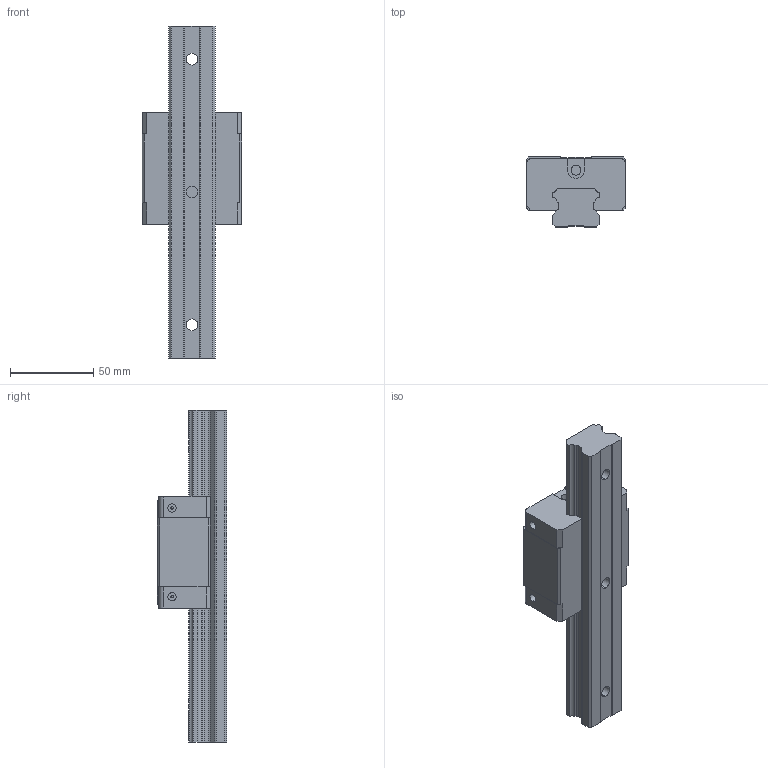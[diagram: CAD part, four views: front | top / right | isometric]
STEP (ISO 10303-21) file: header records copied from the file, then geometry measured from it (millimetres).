
FILE_DESCRIPTION((''),'2;1');
FILE_NAME('QEH30SA_ASM','2008-07-11T',('brianyu'),(''),'PRO/ENGINEER BY PARAMETRIC TECHNOLOGY CORPORATION, 2004360','PRO/ENGINEER BY PARAMETRIC TECHNOLOGY CORPORATION, 2004360','');
FILE_SCHEMA(('CONFIG_CONTROL_DESIGN'));
Length unit declared in the file: millimetre
Products named in the file (4): PRT0003; QEH30SA_BLOCK; QEH30SA_ASM_ASM; QEH30SA_ASM
Assembly tree (3 placements, depth 3):
  QEH30SA_ASM
    QEH30SA_ASM_ASM
      PRT0003
      QEH30SA_BLOCK
Bounding box: 60 x 42 x 200 mm (x, y, z)
Volume: 214195.8 mm3; surface area: 42545.7 mm2
Topology: 2 solids, 2 shells, 179 faces, 486 edges, 330 vertices
Faces by surface type: plane 97, cylinder 82
Entity records: 5846 total; most frequent: DIRECTION 1026, CARTESIAN_POINT 1004, ORIENTED_EDGE 972, EDGE_CURVE 486, AXIS2_PLACEMENT_3D 352, VERTEX_POINT 330, VECTOR 322, LINE 322
